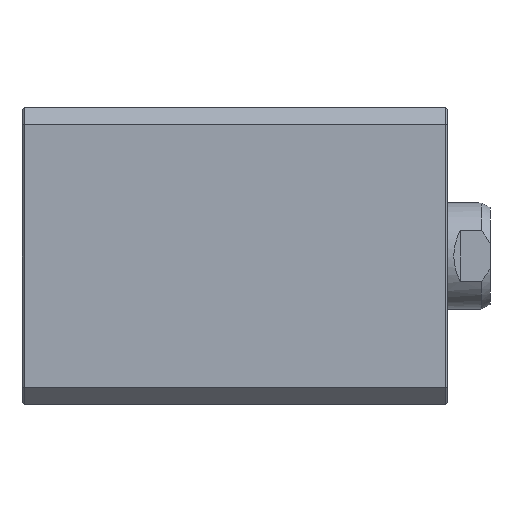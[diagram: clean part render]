
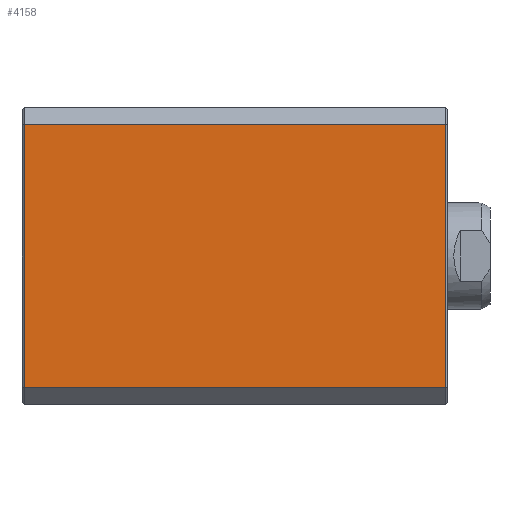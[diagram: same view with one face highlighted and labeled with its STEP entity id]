
A CAD part, left-side view. The second image highlights one B-rep face of the part: STEP entity #4158.
In plain terms, the highlighted planar face has unit normal (-1, 0, 0).
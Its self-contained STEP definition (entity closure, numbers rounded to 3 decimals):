
#132=LINE('',#5833,#426);
#134=LINE('',#5837,#428);
#135=LINE('',#5839,#429);
#136=LINE('',#5841,#430);
#426=VECTOR('',#4779,1000.);
#428=VECTOR('',#4783,1000.);
#429=VECTOR('',#4784,1000.);
#430=VECTOR('',#4785,1000.);
#927=ORIENTED_EDGE('',*,*,#1612,.F.);
#928=ORIENTED_EDGE('',*,*,#1614,.T.);
#929=ORIENTED_EDGE('',*,*,#1615,.T.);
#930=ORIENTED_EDGE('',*,*,#1616,.T.);
#1612=EDGE_CURVE('',#1964,#1965,#132,.T.);
#1614=EDGE_CURVE('',#1964,#1966,#134,.T.);
#1615=EDGE_CURVE('',#1966,#1967,#135,.T.);
#1616=EDGE_CURVE('',#1967,#1965,#136,.T.);
#1964=VERTEX_POINT('',#5832);
#1965=VERTEX_POINT('',#5834);
#1966=VERTEX_POINT('',#5838);
#1967=VERTEX_POINT('',#5840);
#2254=EDGE_LOOP('',(#927,#928,#929,#930));
#2492=FACE_BOUND('',#2254,.T.);
#2675=PLANE('',#4383);
#4158=ADVANCED_FACE('',(#2492),#2675,.T.);
#4383=AXIS2_PLACEMENT_3D('',#5836,#4781,#4782);
#4779=DIRECTION('',(0.,-1.,0.));
#4781=DIRECTION('',(-1.,0.,0.));
#4782=DIRECTION('',(0.,0.,1.));
#4783=DIRECTION('',(0.,0.,-1.));
#4784=DIRECTION('',(0.,-1.,0.));
#4785=DIRECTION('',(0.,0.,1.));
#5832=CARTESIAN_POINT('',(-35.,99.5,31.));
#5833=CARTESIAN_POINT('',(-35.,80.,31.));
#5834=CARTESIAN_POINT('',(-35.,0.5,31.));
#5836=CARTESIAN_POINT('',(-35.,80.,31.));
#5837=CARTESIAN_POINT('',(-35.,99.5,31.));
#5838=CARTESIAN_POINT('',(-35.,99.5,-31.));
#5839=CARTESIAN_POINT('',(-35.,80.,-31.));
#5840=CARTESIAN_POINT('',(-35.,0.5,-31.));
#5841=CARTESIAN_POINT('',(-35.,0.5,31.));
